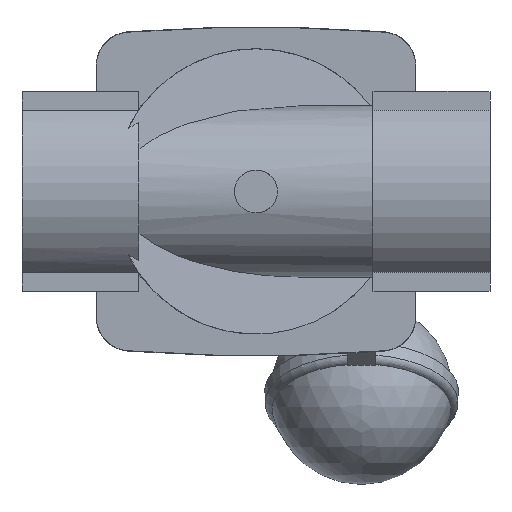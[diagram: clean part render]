
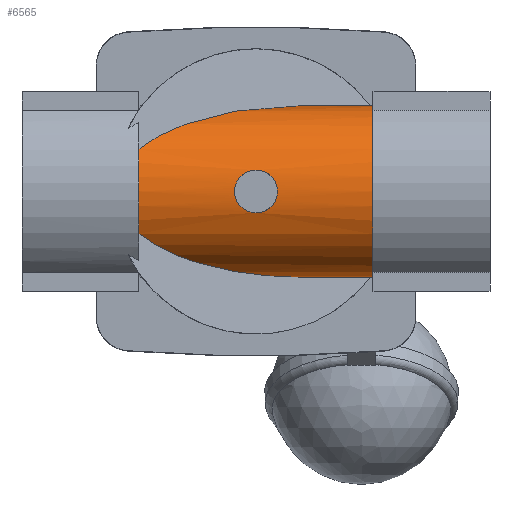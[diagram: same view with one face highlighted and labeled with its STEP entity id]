
A CAD part, front view. The second image highlights one B-rep face of the part: STEP entity #6565.
In plain terms, the highlighted cylindrical face has radius 30 mm (diameter 60 mm), a partial arc.
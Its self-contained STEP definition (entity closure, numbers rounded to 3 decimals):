
#78=ELLIPSE('',#6932,71.15,30.);
#81=ELLIPSE('',#6939,71.15,30.);
#94=B_SPLINE_CURVE_WITH_KNOTS('',3,(#9528,#9529,#9530,#9531,#9532,#9533,
#9534,#9535,#9536,#9537,#9538,#9539,#9540,#9541,#9542,#9543,#9544,#9545,
#9546),.UNSPECIFIED.,.T.,.F.,(1,1,1,1,1,1,1,1,1,1,1,1,1,1,1,1,1,1,1,1,1,
1,1),(-0.009,-0.006,-0.003,0.,
0.003,0.006,0.009,0.012,
0.015,0.018,0.021,0.024,
0.026,0.029,0.032,0.035,
0.038,0.041,0.044,0.047,
0.05,0.053,0.056),.UNSPECIFIED.);
#165=CYLINDRICAL_SURFACE('',#6962,30.);
#425=LINE('',#9523,#865);
#426=LINE('',#9527,#866);
#865=VECTOR('',#7916,1000.);
#866=VECTOR('',#7919,1000.);
#1660=ORIENTED_EDGE('',*,*,#2837,.F.);
#1661=ORIENTED_EDGE('',*,*,#2877,.T.);
#1662=ORIENTED_EDGE('',*,*,#2822,.F.);
#1663=ORIENTED_EDGE('',*,*,#2878,.F.);
#1664=ORIENTED_EDGE('',*,*,#2879,.F.);
#1665=ORIENTED_EDGE('',*,*,#2880,.T.);
#1666=ORIENTED_EDGE('',*,*,#2881,.F.);
#2822=EDGE_CURVE('',#3492,#3493,#78,.F.);
#2837=EDGE_CURVE('',#3505,#3506,#81,.F.);
#2877=EDGE_CURVE('',#3505,#3493,#3878,.T.);
#2878=EDGE_CURVE('',#3526,#3492,#425,.T.);
#2879=EDGE_CURVE('',#3527,#3526,#3879,.T.);
#2880=EDGE_CURVE('',#3527,#3506,#426,.T.);
#2881=EDGE_CURVE('',#3528,#3528,#94,.T.);
#3492=VERTEX_POINT('',#9408);
#3493=VERTEX_POINT('',#9410);
#3505=VERTEX_POINT('',#9445);
#3506=VERTEX_POINT('',#9447);
#3526=VERTEX_POINT('',#9524);
#3527=VERTEX_POINT('',#9526);
#3528=VERTEX_POINT('',#9547);
#3878=CIRCLE('',#6963,30.);
#3879=CIRCLE('',#6964,30.);
#4157=EDGE_LOOP('',(#1660,#1661,#1662,#1663,#1664,#1665));
#4158=EDGE_LOOP('',(#1666));
#4501=FACE_BOUND('',#4157,.T.);
#4502=FACE_BOUND('',#4158,.T.);
#6565=ADVANCED_FACE('',(#4501,#4502),#165,.T.);
#6932=AXIS2_PLACEMENT_3D('',#9409,#7811,#7812);
#6939=AXIS2_PLACEMENT_3D('',#9446,#7834,#7835);
#6962=AXIS2_PLACEMENT_3D('',#9521,#7912,#7913);
#6963=AXIS2_PLACEMENT_3D('',#9522,#7914,#7915);
#6964=AXIS2_PLACEMENT_3D('',#9525,#7917,#7918);
#7811=DIRECTION('',(0.422,-0.907,0.));
#7812=DIRECTION('',(-0.907,-0.422,0.));
#7834=DIRECTION('',(0.422,-0.907,0.));
#7835=DIRECTION('',(-0.907,-0.422,0.));
#7912=DIRECTION('',(-1.,0.,0.));
#7913=DIRECTION('',(0.,0.,1.));
#7914=DIRECTION('',(1.,0.,0.));
#7915=DIRECTION('',(0.,0.,-1.));
#7916=DIRECTION('',(-1.,0.,0.));
#7917=DIRECTION('',(1.,0.,0.));
#7918=DIRECTION('',(0.,0.,-1.));
#7919=DIRECTION('',(-1.,0.,0.));
#9408=CARTESIAN_POINT('',(15.161,-46.2,-30.));
#9409=CARTESIAN_POINT('',(15.161,-46.2,0.));
#9410=CARTESIAN_POINT('',(-41.,-72.315,-14.765));
#9445=CARTESIAN_POINT('',(-41.,-72.315,14.765));
#9446=CARTESIAN_POINT('',(15.161,-46.2,0.));
#9447=CARTESIAN_POINT('',(15.161,-46.2,30.));
#9521=CARTESIAN_POINT('',(41.,-46.2,0.));
#9522=CARTESIAN_POINT('',(-41.,-46.2,0.));
#9523=CARTESIAN_POINT('',(41.,-46.2,-30.));
#9524=CARTESIAN_POINT('',(41.,-46.2,-30.));
#9525=CARTESIAN_POINT('',(41.,-46.2,0.));
#9526=CARTESIAN_POINT('',(41.,-46.2,30.));
#9527=CARTESIAN_POINT('',(41.,-46.2,30.));
#9528=CARTESIAN_POINT('',(2.966,-75.354,7.101));
#9529=CARTESIAN_POINT('',(-0.002,-75.194,7.699));
#9530=CARTESIAN_POINT('',(-2.957,-75.354,7.104));
#9531=CARTESIAN_POINT('',(-5.441,-75.729,5.439));
#9532=CARTESIAN_POINT('',(-7.104,-76.097,2.957));
#9533=CARTESIAN_POINT('',(-7.697,-76.251,0.006));
#9534=CARTESIAN_POINT('',(-7.108,-76.098,-2.951));
#9535=CARTESIAN_POINT('',(-5.439,-75.728,-5.441));
#9536=CARTESIAN_POINT('',(-2.955,-75.354,-7.105));
#9537=CARTESIAN_POINT('',(-0.004,-75.194,-7.697));
#9538=CARTESIAN_POINT('',(2.95,-75.353,-7.107));
#9539=CARTESIAN_POINT('',(5.435,-75.728,-5.444));
#9540=CARTESIAN_POINT('',(7.103,-76.097,-2.961));
#9541=CARTESIAN_POINT('',(7.698,-76.251,-0.004));
#9542=CARTESIAN_POINT('',(7.107,-76.098,2.952));
#9543=CARTESIAN_POINT('',(5.442,-75.729,5.437));
#9544=CARTESIAN_POINT('',(2.966,-75.354,7.101));
#9545=CARTESIAN_POINT('',(-0.002,-75.194,7.699));
#9546=CARTESIAN_POINT('',(-2.957,-75.354,7.104));
#9547=CARTESIAN_POINT('',(0.,-75.247,7.5));
